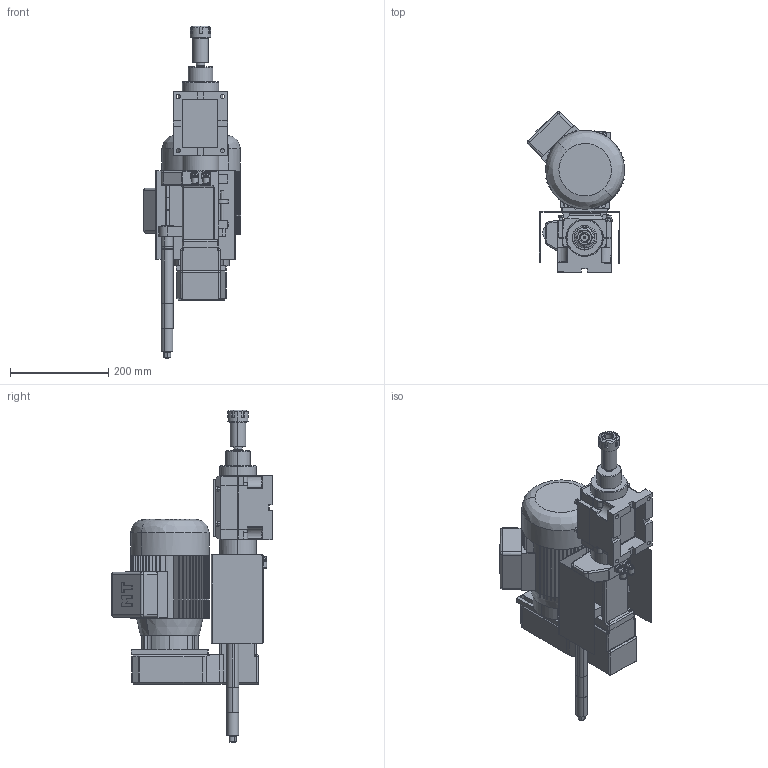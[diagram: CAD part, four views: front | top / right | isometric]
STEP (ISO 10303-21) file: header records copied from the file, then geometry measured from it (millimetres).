
FILE_DESCRIPTION (( 'STEP AP214' ), '1' );
FILE_NAME ('BPR3P-75.STEP', '2026-04-08T08:09:03', ( '' ), ( '' ), 'SwSTEP 2.0', 'SolidWorks 2014', '' );
FILE_SCHEMA (( 'AUTOMOTIVE_DESIGN' ));
Length unit declared in the file: millimetre
Products named in the file (15): MOTOR; HYDROCHECK-50MM; BPR3P-75; ER-25; BPR3P-BELTHOUSING; AIR-CONNECTION; AS-40102; AS-40077A; AS-40072A; AS-30081A; LC-74; HYDROCHECK-75MM; HYDROCHECK-25MM; ER-20; BPR3P-75-SPINDLE
Assembly tree (16 placements, depth 2):
  BPR3P-75
    BPR3P-75-SPINDLE
    BPR3P-BELTHOUSING
    LC-74
    ER-20
    ER-25
    HYDROCHECK-25MM
    HYDROCHECK-50MM
    HYDROCHECK-75MM
    AS-40102  x2
    AS-40077A
    AS-30081A
    AS-40072A
    AIR-CONNECTION  x2
    MOTOR
Bounding box: 198.02 x 327.52 x 674.9 mm (x, y, z)
Volume: 8926910 mm3; surface area: 949535.3 mm2
Topology: 21 solids, 30 shells, 1429 faces, 3540 edges, 2174 vertices
Faces by surface type: plane 708, cylinder 505, cone 140, bspline 53, sphere 13, torus 10
Entity records: 51813 total; most frequent: CARTESIAN_POINT 8647, DIRECTION 6882, ORIENTED_EDGE 6546, EDGE_CURVE 3288, AXIS2_PLACEMENT_3D 2471, VERTEX_POINT 2063, LINE 1940, VECTOR 1940
